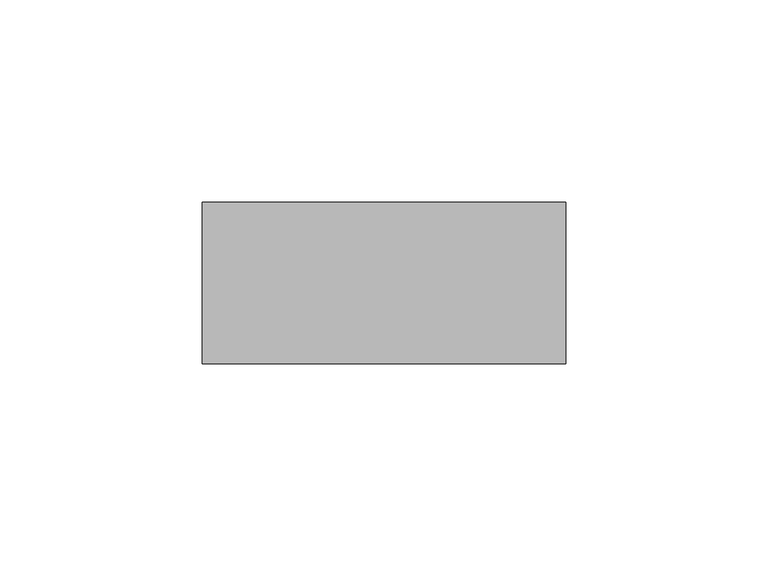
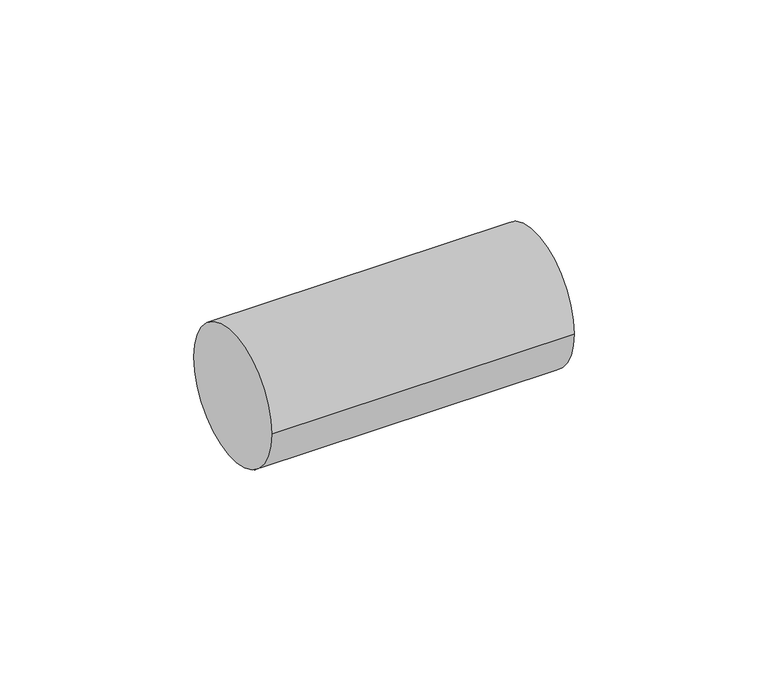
"""IFC4 building model written with IfcOpenShell, lengths in millimetres: valve geometry, EVRA_Термоголовка EVRA MТB140 : EVRA MТB140."""

from ifc_helpers import new_model, si_unit, point, frame, origin, origin_2d, place, context, project, spatial, circle_curve, trimmed, segment, composite_curve, outline, extrude, source, transform, mapped, element, save


def valve_18af1cec(model_context):
    return source(origin(), model_context, "Body", "SweptSolid", [
        extrude(outline(composite_curve([segment(trimmed(circle_curve(origin_2d(), 20.0), [point((-20.0, 0.0))], [point((20.0, 0.0))], False, "CARTESIAN"), True, "CONTINUOUS"), segment(trimmed(circle_curve(origin_2d(), 20.0), [point((20.0, 0.0))], [point((-20.0, 0.0))], False, "CARTESIAN"), True, "CONTINUOUS")], self_intersect=False)), frame((-540.0, 0.0, 0.0), z_axis=(1.0, 0.0, 0.0), x_axis=(0.0, 1.0, 0.0)), (0.0, 0.0, 1.0), 90.0),
    ])


if __name__ == "__main__":
    model = new_model("IFC4")
    model_context = context("Model", 3, world=origin())
    ifc_project = project(units=[si_unit("LENGTHUNIT", "METRE", prefix="MILLI")], contexts=[model_context])
    site = spatial("IfcSite", under=ifc_project)
    building = spatial("IfcBuilding", under=site)
    placement = place(None, origin())
    valve_shape = valve_18af1cec(model_context)
    element("IfcValve", 1, ObjectType="EVRA_Термоголовка EVRA MТB140 : EVRA MТB140", at=placement, inside=building, context=model_context, shape_type="MappedRepresentation", body=[
        mapped(valve_shape, transform((0.0, 0.0, 0.0), x_axis=(1.0, 0.0, 0.0), y_axis=(0.0, 1.0, 0.0), z_axis=(0.0, 0.0, 1.0))),
    ])
    save(model, "model.ifc")
